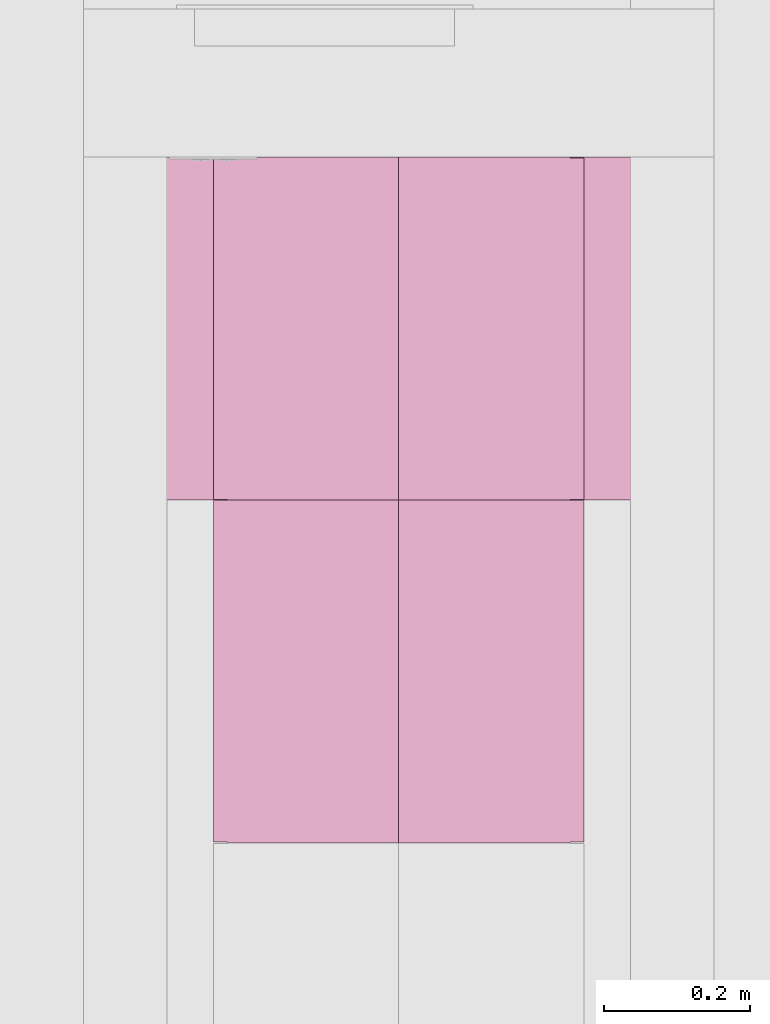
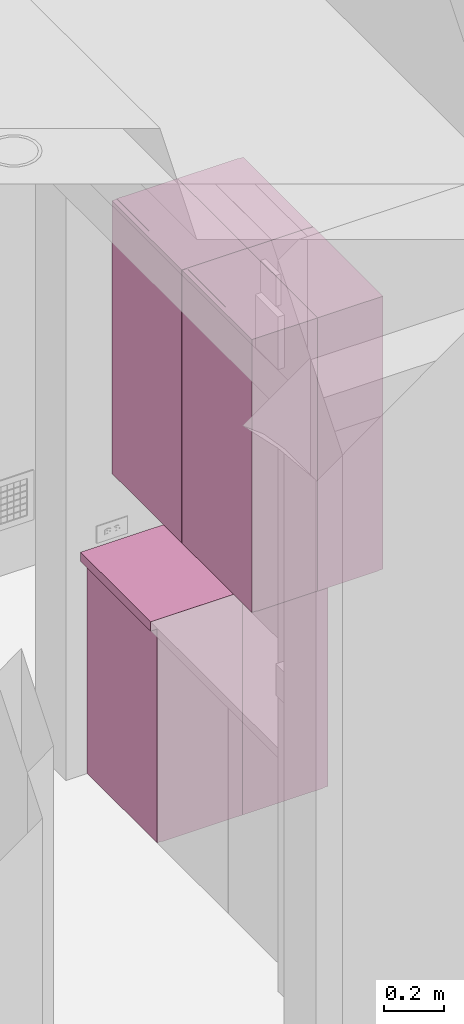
# One storey, part 49 of 103: 6 furnishings.
"""IFC2X3 building model written with IfcOpenShell, lengths in inches."""

from ifc_helpers import new_model, entity, si_unit, converted_unit, derived_unit, money_unit, direction, frame, origin_with_axes, place, context, subcontext, project, spatial, faceted_brep, type_object, element, save


model = new_model("IFC2X3")

# Units and contexts
model_context = context("Model", 3, precision=0.00039370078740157, world=origin_with_axes(), true_north=direction((0.0, 1.0)))
plan_context = context("Plan", 3, precision=0.00039370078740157, world=origin_with_axes(), true_north=direction((0.0, 1.0)))
body_context = subcontext(model_context, "Body", "Model", "MODEL_VIEW")
ifc_project = project(units=[converted_unit("LENGTHUNIT", "INCH", entity("IfcPositiveLengthMeasure", 0.0254), si_unit("LENGTHUNIT", "METRE"), dimensions=[1, 0, 0, 0, 0, 0, 0]), converted_unit("AREAUNIT", "SQUARE_FOOT", entity("IfcPositiveLengthMeasure", 0.09290304), si_unit("AREAUNIT", "SQUARE_METRE"), dimensions=[2, 0, 0, 0, 0, 0, 0]), si_unit("PLANEANGLEUNIT", "RADIAN"), si_unit("SOLIDANGLEUNIT", "STERADIAN"), money_unit("USD"), converted_unit("TIMEUNIT", "Year", entity("IfcTimeMeasure", 31557600.0), si_unit("TIMEUNIT", "SECOND"), dimensions=[0, 0, 1, 0, 0, 0, 0]), si_unit("MASSUNIT", "GRAM", prefix="KILO"), si_unit("THERMODYNAMICTEMPERATUREUNIT", "DEGREE_CELSIUS"), si_unit("LUMINOUSINTENSITYUNIT", "LUMEN"), si_unit("ENERGYUNIT", "JOULE", prefix="MEGA"), derived_unit("SPECIFICHEATCAPACITYUNIT", [(si_unit("ENERGYUNIT", "JOULE"), 1), (si_unit("MASSUNIT", "GRAM", prefix="KILO"), -1), (si_unit("THERMODYNAMICTEMPERATUREUNIT", "KELVIN"), -1)])], contexts=[model_context, plan_context])

# Site, building, storey
site_placement = place(None, origin_with_axes())
site = spatial("IfcSite", under=ifc_project, at=site_placement, Name="Site", CompositionType="ELEMENT")
building_placement = place(site_placement, origin_with_axes())
building = spatial("IfcBuilding", under=site, at=building_placement, Name="Building", CompositionType="ELEMENT")
storey_placement = place(building_placement, frame((0.0, 0.0, 127.9999999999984), z_axis=(0.0, 0.0, 1.0), x_axis=(1.0, 0.0, 0.0)))
storey = spatial("IfcBuildingStorey", under=building, at=storey_placement, Name="Second Floor", CompositionType="ELEMENT", Elevation=128.0)

# Furnishings
furniture_type_1 = type_object("IfcFurnitureType", Name="Base Cabinet Block", AssemblyPlace="NOTDEFINED")
furnishing_1_placement = place(storey_placement, frame((225.749999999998, 261.5028415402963, 0.0), z_axis=(0.0, 0.0, 1.0), x_axis=(0.0, 1.0, 0.0)))
element("IfcFurnishingElement", 1, at=furnishing_1_placement, inside=storey, type_object=furniture_type_1, Name="FU - 004", context=body_context, shape_type="Brep", body=[
    faceted_brep([(0.0, -13.99999999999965, 34.49999999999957), (0.0, -13.99999999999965, 35.99999999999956), (-18.49999999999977, -13.99999999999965, 35.99999999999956), (-18.49999999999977, -13.99999999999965, 34.49999999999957), (0.0, 0.0, 34.49999999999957), (0.0, 0.0, 35.99999999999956), (-18.49999999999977, 0.0, 35.99999999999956), (-18.49999999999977, 0.0, 34.49999999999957)], [[[0, 1, 2, 3]], [[4, 5, 1, 0]], [[1, 5, 6, 2]], [[3, 2, 6, 7]], [[0, 3, 7, 4]], [[7, 6, 5, 4]]]),
    faceted_brep([(-0.039370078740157, -12.24999999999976, 0.039370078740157), (-0.039370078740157, -12.99999999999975, 0.03937007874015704), (-18.46062992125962, -12.99999999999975, 0.03937007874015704), (-18.46062992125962, -12.24999999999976, 0.039370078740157), (-0.039370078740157, -12.24999999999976, 34.46062992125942), (-0.039370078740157, -12.99999999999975, 34.46062992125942), (-18.46062992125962, -12.99999999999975, 34.46062992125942), (-18.46062992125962, -12.24999999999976, 34.46062992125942)], [[[0, 1, 2, 3]], [[4, 5, 1, 0]], [[1, 5, 6, 2]], [[3, 2, 6, 7]], [[0, 3, 7, 4]], [[7, 6, 5, 4]]]),
    faceted_brep([(-0.7499999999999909, -12.24999999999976, 0.0), (-0.7499999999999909, -12.24999999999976, 0.7499999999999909), (-17.74999999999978, -12.24999999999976, 0.7499999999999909), (-17.74999999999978, -12.24999999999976, 0.0), (-0.7499999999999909, 0.0, 0.0), (-0.7499999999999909, 0.0, 0.7499999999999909), (-17.74999999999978, 0.0, 0.7499999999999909), (-17.74999999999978, 0.0, 0.0)], [[[0, 1, 2, 3]], [[4, 5, 1, 0]], [[1, 5, 6, 2]], [[3, 2, 6, 7]], [[0, 3, 7, 4]], [[7, 6, 5, 4]]]),
    faceted_brep([(-0.7499999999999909, -12.24999999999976, 33.74999999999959), (-17.74999999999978, -12.24999999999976, 33.74999999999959), (-17.74999999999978, -9.887795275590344, 33.74999999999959), (-0.7499999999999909, -9.887795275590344, 33.74999999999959), (-0.7499999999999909, -12.24999999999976, 34.49999999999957), (-17.74999999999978, -12.24999999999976, 34.49999999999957), (-17.74999999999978, -9.887795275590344, 34.49999999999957), (-0.7499999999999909, -9.887795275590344, 34.49999999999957)], [[[0, 1, 2, 3]], [[4, 5, 1, 0]], [[1, 5, 6, 2]], [[3, 2, 6, 7]], [[0, 3, 7, 4]], [[7, 6, 5, 4]]]),
    faceted_brep([(-17.74999999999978, 0.0, 33.74999999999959), (-0.7499999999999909, 0.0, 33.74999999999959), (-0.7499999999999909, -2.36220472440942, 33.74999999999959), (-17.74999999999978, -2.36220472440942, 33.74999999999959), (-17.74999999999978, 0.0, 34.49999999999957), (-0.7499999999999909, 0.0, 34.49999999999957), (-0.7499999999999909, -2.36220472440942, 34.49999999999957), (-17.74999999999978, -2.36220472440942, 34.49999999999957)], [[[0, 1, 2, 3]], [[4, 5, 1, 0]], [[1, 5, 6, 2]], [[3, 2, 6, 7]], [[0, 3, 7, 4]], [[7, 6, 5, 4]]]),
    faceted_brep([(0.0, 0.0, 0.0), (0.0, 0.0, 34.49999999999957), (0.0, -12.24999999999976, 34.49999999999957), (0.0, -12.24999999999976, 0.0), (-0.7499999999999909, 0.0, 0.0), (-0.7499999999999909, 0.0, 34.49999999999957), (-0.7499999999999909, -12.24999999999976, 34.49999999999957), (-0.7499999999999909, -12.24999999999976, 0.0)], [[[0, 1, 2, 3]], [[4, 5, 1, 0]], [[1, 5, 6, 2]], [[3, 2, 6, 7]], [[0, 3, 7, 4]], [[7, 6, 5, 4]]]),
    faceted_brep([(-18.49999999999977, -12.24999999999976, 0.0), (-18.49999999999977, -12.24999999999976, 34.49999999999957), (-18.49999999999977, 0.0, 34.49999999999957), (-18.49999999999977, 0.0, 0.0), (-17.74999999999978, -12.24999999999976, 0.0), (-17.74999999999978, -12.24999999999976, 34.49999999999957), (-17.74999999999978, 0.0, 34.49999999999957), (-17.74999999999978, 0.0, 0.0)], [[[0, 1, 2, 3]], [[4, 5, 1, 0]], [[1, 5, 6, 2]], [[3, 2, 6, 7]], [[0, 3, 7, 4]], [[7, 6, 5, 4]]]),
    faceted_brep([(-17.74999999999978, -0.3749999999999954, 0.7499999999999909), (-17.74999999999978, -0.3749999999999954, 33.74999999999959), (-0.7499999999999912, -0.3749999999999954, 33.74999999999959), (-0.7499999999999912, -0.3749999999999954, 0.7499999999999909), (-17.74999999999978, -0.7499999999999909, 0.7499999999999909), (-17.74999999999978, -0.7499999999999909, 33.74999999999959), (-0.7499999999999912, -0.7499999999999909, 33.74999999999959), (-0.7499999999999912, -0.7499999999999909, 0.7499999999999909)], [[[0, 1, 2, 3]], [[4, 5, 1, 0]], [[1, 5, 6, 2]], [[3, 2, 6, 7]], [[0, 3, 7, 4]], [[7, 6, 5, 4]]]),
])
furnishing_2_placement = place(storey_placement, frame((225.749999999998, 261.5028415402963, 0.0), z_axis=(0.0, 0.0, 1.0), x_axis=(0.0, -1.0, 0.0)))
element("IfcFurnishingElement", 2, at=furnishing_2_placement, inside=storey, type_object=furniture_type_1, Name="FU - 004", context=body_context, shape_type="Brep", body=[
    faceted_brep([(0.0, -13.99999999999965, 34.49999999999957), (18.49999999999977, -13.99999999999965, 34.49999999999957), (18.49999999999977, -13.99999999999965, 35.99999999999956), (0.0, -13.99999999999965, 35.99999999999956), (0.0, 0.0, 34.49999999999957), (18.49999999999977, 0.0, 34.49999999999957), (18.49999999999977, 0.0, 35.99999999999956), (0.0, 0.0, 35.99999999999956)], [[[0, 1, 2, 3]], [[0, 4, 5, 1]], [[1, 5, 6, 2]], [[3, 2, 6, 7]], [[4, 0, 3, 7]], [[5, 4, 7, 6]]]),
    faceted_brep([(0.039370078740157, -12.24999999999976, 0.039370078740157), (18.46062992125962, -12.24999999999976, 0.039370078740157), (18.46062992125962, -12.99999999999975, 0.03937007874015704), (0.039370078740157, -12.99999999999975, 0.03937007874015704), (0.039370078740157, -12.24999999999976, 34.46062992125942), (18.46062992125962, -12.24999999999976, 34.46062992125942), (18.46062992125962, -12.99999999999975, 34.46062992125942), (0.039370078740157, -12.99999999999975, 34.46062992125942)], [[[0, 1, 2, 3]], [[0, 4, 5, 1]], [[1, 5, 6, 2]], [[3, 2, 6, 7]], [[4, 0, 3, 7]], [[5, 4, 7, 6]]]),
    faceted_brep([(0.7499999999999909, -12.24999999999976, 0.0), (17.74999999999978, -12.24999999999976, 0.0), (17.74999999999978, -12.24999999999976, 0.7499999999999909), (0.7499999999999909, -12.24999999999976, 0.7499999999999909), (0.7499999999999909, 0.0, 0.0), (17.74999999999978, 0.0, 0.0), (17.74999999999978, 0.0, 0.7499999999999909), (0.7499999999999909, 0.0, 0.7499999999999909)], [[[0, 1, 2, 3]], [[0, 4, 5, 1]], [[1, 5, 6, 2]], [[3, 2, 6, 7]], [[4, 0, 3, 7]], [[5, 4, 7, 6]]]),
    faceted_brep([(0.7499999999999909, -12.24999999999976, 33.74999999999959), (0.7499999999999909, -9.887795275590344, 33.74999999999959), (17.74999999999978, -9.887795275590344, 33.74999999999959), (17.74999999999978, -12.24999999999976, 33.74999999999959), (0.7499999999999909, -12.24999999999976, 34.49999999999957), (0.7499999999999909, -9.887795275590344, 34.49999999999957), (17.74999999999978, -9.887795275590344, 34.49999999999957), (17.74999999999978, -12.24999999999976, 34.49999999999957)], [[[0, 1, 2, 3]], [[0, 4, 5, 1]], [[1, 5, 6, 2]], [[3, 2, 6, 7]], [[4, 0, 3, 7]], [[5, 4, 7, 6]]]),
    faceted_brep([(17.74999999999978, 0.0, 33.74999999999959), (17.74999999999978, -2.36220472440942, 33.74999999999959), (0.7499999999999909, -2.36220472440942, 33.74999999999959), (0.7499999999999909, 0.0, 33.74999999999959), (17.74999999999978, 0.0, 34.49999999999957), (17.74999999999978, -2.36220472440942, 34.49999999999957), (0.7499999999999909, -2.36220472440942, 34.49999999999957), (0.7499999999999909, 0.0, 34.49999999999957)], [[[0, 1, 2, 3]], [[0, 4, 5, 1]], [[1, 5, 6, 2]], [[3, 2, 6, 7]], [[4, 0, 3, 7]], [[5, 4, 7, 6]]]),
    faceted_brep([(0.0, 0.0, 0.0), (0.0, -12.24999999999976, 0.0), (0.0, -12.24999999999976, 34.49999999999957), (0.0, 0.0, 34.49999999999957), (0.7499999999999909, 0.0, 0.0), (0.7499999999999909, -12.24999999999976, 0.0), (0.7499999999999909, -12.24999999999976, 34.49999999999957), (0.7499999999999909, 0.0, 34.49999999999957)], [[[0, 1, 2, 3]], [[0, 4, 5, 1]], [[1, 5, 6, 2]], [[3, 2, 6, 7]], [[4, 0, 3, 7]], [[5, 4, 7, 6]]]),
    faceted_brep([(18.49999999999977, -12.24999999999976, 0.0), (18.49999999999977, 0.0, 0.0), (18.49999999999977, 0.0, 34.49999999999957), (18.49999999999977, -12.24999999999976, 34.49999999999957), (17.74999999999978, -12.24999999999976, 0.0), (17.74999999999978, 0.0, 0.0), (17.74999999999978, 0.0, 34.49999999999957), (17.74999999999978, -12.24999999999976, 34.49999999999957)], [[[0, 1, 2, 3]], [[0, 4, 5, 1]], [[1, 5, 6, 2]], [[3, 2, 6, 7]], [[4, 0, 3, 7]], [[5, 4, 7, 6]]]),
    faceted_brep([(17.74999999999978, -0.3749999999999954, 0.7499999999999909), (0.7499999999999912, -0.3749999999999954, 0.7499999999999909), (0.7499999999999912, -0.3749999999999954, 33.74999999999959), (17.74999999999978, -0.3749999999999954, 33.74999999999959), (17.74999999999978, -0.7499999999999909, 0.7499999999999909), (0.7499999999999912, -0.7499999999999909, 0.7499999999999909), (0.7499999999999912, -0.7499999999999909, 33.74999999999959), (17.74999999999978, -0.7499999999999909, 33.74999999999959)], [[[0, 1, 2, 3]], [[0, 4, 5, 1]], [[1, 5, 6, 2]], [[3, 2, 6, 7]], [[4, 0, 3, 7]], [[5, 4, 7, 6]]]),
])
furniture_type_2 = type_object("IfcFurnitureType", Name="Wall Cabinet Block", AssemblyPlace="NOTDEFINED")
furnishing_3_placement = place(storey_placement, frame((226.4999999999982, 224.5028415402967, -12.99999999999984), z_axis=(0.0, 0.0, 1.0), x_axis=(0.0, -1.0, 0.0)))
element("IfcFurnishingElement", 3, at=furnishing_3_placement, inside=storey, type_object=furniture_type_2, Name="FU - 005", context=body_context, shape_type="Brep", body=[
    faceted_brep([(-0.039370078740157, -9.249999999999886, 60.03937007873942), (-0.039370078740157, -9.999999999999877, 60.03937007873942), (-18.46062992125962, -9.999999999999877, 60.03937007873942), (-18.46062992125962, -9.249999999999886, 60.03937007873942), (-0.039370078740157, -9.249999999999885, 103.9606299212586), (-0.039370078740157, -9.999999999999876, 103.9606299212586), (-18.46062992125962, -9.999999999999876, 103.9606299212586), (-18.46062992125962, -9.249999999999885, 103.9606299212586)], [[[0, 1, 2, 3]], [[4, 5, 1, 0]], [[1, 5, 6, 2]], [[3, 2, 6, 7]], [[0, 3, 7, 4]], [[7, 6, 5, 4]]]),
    faceted_brep([(-0.7499999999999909, -9.249999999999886, 59.99999999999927), (-0.7499999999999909, -9.249999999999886, 60.74999999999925), (-17.74999999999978, -9.249999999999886, 60.74999999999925), (-17.74999999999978, -9.249999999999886, 59.99999999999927), (-0.7499999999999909, 0.0, 59.99999999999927), (-0.7499999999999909, 0.0, 60.74999999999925), (-17.74999999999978, 0.0, 60.74999999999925), (-17.74999999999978, 0.0, 59.99999999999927)], [[[0, 1, 2, 3]], [[4, 5, 1, 0]], [[1, 5, 6, 2]], [[3, 2, 6, 7]], [[0, 3, 7, 4]], [[7, 6, 5, 4]]]),
    faceted_brep([(-0.7499999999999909, -9.249999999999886, 103.2499999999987), (-0.7499999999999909, -9.249999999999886, 103.9999999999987), (-17.74999999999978, -9.249999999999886, 103.9999999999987), (-17.74999999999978, -9.249999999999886, 103.2499999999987), (-0.7499999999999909, 0.0, 103.2499999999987), (-0.7499999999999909, 0.0, 103.9999999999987), (-17.74999999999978, 0.0, 103.9999999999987), (-17.74999999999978, 0.0, 103.2499999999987)], [[[0, 1, 2, 3]], [[4, 5, 1, 0]], [[1, 5, 6, 2]], [[3, 2, 6, 7]], [[0, 3, 7, 4]], [[7, 6, 5, 4]]]),
    faceted_brep([(0.0, 0.0, 59.99999999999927), (0.0, 0.0, 103.9999999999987), (0.0, -9.249999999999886, 103.9999999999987), (0.0, -9.249999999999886, 59.99999999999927), (-0.7499999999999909, 0.0, 59.99999999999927), (-0.7499999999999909, 0.0, 103.9999999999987), (-0.7499999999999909, -9.249999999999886, 103.9999999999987), (-0.7499999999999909, -9.249999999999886, 59.99999999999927)], [[[0, 1, 2, 3]], [[4, 5, 1, 0]], [[1, 5, 6, 2]], [[3, 2, 6, 7]], [[0, 3, 7, 4]], [[7, 6, 5, 4]]]),
    faceted_brep([(-18.49999999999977, -9.249999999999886, 59.99999999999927), (-18.49999999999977, -9.249999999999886, 103.9999999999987), (-18.49999999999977, 0.0, 103.9999999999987), (-18.49999999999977, 0.0, 59.99999999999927), (-17.74999999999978, -9.249999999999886, 59.99999999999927), (-17.74999999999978, -9.249999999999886, 103.9999999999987), (-17.74999999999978, 0.0, 103.9999999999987), (-17.74999999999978, 0.0, 59.99999999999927)], [[[0, 1, 2, 3]], [[4, 5, 1, 0]], [[1, 5, 6, 2]], [[3, 2, 6, 7]], [[0, 3, 7, 4]], [[7, 6, 5, 4]]]),
    faceted_brep([(-17.74999999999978, -0.3749999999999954, 60.74999999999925), (-17.74999999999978, -0.3749999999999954, 103.2499999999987), (-0.7499999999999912, -0.3749999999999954, 103.2499999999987), (-0.7499999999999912, -0.3749999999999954, 60.74999999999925), (-17.74999999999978, -0.7499999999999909, 60.74999999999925), (-17.74999999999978, -0.7499999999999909, 103.2499999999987), (-0.7499999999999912, -0.7499999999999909, 103.2499999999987), (-0.7499999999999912, -0.7499999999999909, 60.74999999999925)], [[[0, 1, 2, 3]], [[4, 5, 1, 0]], [[1, 5, 6, 2]], [[3, 2, 6, 7]], [[0, 3, 7, 4]], [[7, 6, 5, 4]]]),
])
furnishing_4_placement = place(storey_placement, frame((226.4999999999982, 261.5028415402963, -12.99999999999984), z_axis=(0.0, 0.0, 1.0), x_axis=(0.0, -1.0, 0.0)))
element("IfcFurnishingElement", 4, at=furnishing_4_placement, inside=storey, type_object=furniture_type_2, Name="FU - 005", context=body_context, shape_type="Brep", body=[
    faceted_brep([(0.039370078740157, -9.2499999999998, 60.03937007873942), (18.46062992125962, -9.2499999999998, 60.03937007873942), (18.46062992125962, -9.99999999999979, 60.03937007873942), (0.039370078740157, -9.99999999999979, 60.03937007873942), (0.039370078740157, -9.249999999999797, 103.9606299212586), (18.46062992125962, -9.249999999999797, 103.9606299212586), (18.46062992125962, -9.999999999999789, 103.9606299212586), (0.039370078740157, -9.999999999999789, 103.9606299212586)], [[[0, 1, 2, 3]], [[0, 4, 5, 1]], [[1, 5, 6, 2]], [[3, 2, 6, 7]], [[4, 0, 3, 7]], [[5, 4, 7, 6]]]),
    faceted_brep([(0.7499999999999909, -9.2499999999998, 59.99999999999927), (17.74999999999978, -9.2499999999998, 59.99999999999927), (17.74999999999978, -9.2499999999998, 60.74999999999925), (0.7499999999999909, -9.2499999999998, 60.74999999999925), (0.7499999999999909, 0.0, 59.99999999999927), (17.74999999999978, 0.0, 59.99999999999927), (17.74999999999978, 0.0, 60.74999999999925), (0.7499999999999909, 0.0, 60.74999999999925)], [[[0, 1, 2, 3]], [[0, 4, 5, 1]], [[1, 5, 6, 2]], [[3, 2, 6, 7]], [[4, 0, 3, 7]], [[5, 4, 7, 6]]]),
    faceted_brep([(0.7499999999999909, -9.2499999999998, 103.2499999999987), (17.74999999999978, -9.2499999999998, 103.2499999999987), (17.74999999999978, -9.2499999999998, 103.9999999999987), (0.7499999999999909, -9.2499999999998, 103.9999999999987), (0.7499999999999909, 0.0, 103.2499999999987), (17.74999999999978, 0.0, 103.2499999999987), (17.74999999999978, 0.0, 103.9999999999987), (0.7499999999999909, 0.0, 103.9999999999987)], [[[0, 1, 2, 3]], [[0, 4, 5, 1]], [[1, 5, 6, 2]], [[3, 2, 6, 7]], [[4, 0, 3, 7]], [[5, 4, 7, 6]]]),
    faceted_brep([(0.0, 0.0, 59.99999999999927), (0.0, -9.2499999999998, 59.99999999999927), (0.0, -9.2499999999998, 103.9999999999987), (0.0, 0.0, 103.9999999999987), (0.7499999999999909, 0.0, 59.99999999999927), (0.7499999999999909, -9.2499999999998, 59.99999999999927), (0.7499999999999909, -9.2499999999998, 103.9999999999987), (0.7499999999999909, 0.0, 103.9999999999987)], [[[0, 1, 2, 3]], [[0, 4, 5, 1]], [[1, 5, 6, 2]], [[3, 2, 6, 7]], [[4, 0, 3, 7]], [[5, 4, 7, 6]]]),
    faceted_brep([(18.49999999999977, -9.2499999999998, 59.99999999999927), (18.49999999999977, 0.0, 59.99999999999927), (18.49999999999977, 0.0, 103.9999999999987), (18.49999999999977, -9.2499999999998, 103.9999999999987), (17.74999999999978, -9.2499999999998, 59.99999999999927), (17.74999999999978, 0.0, 59.99999999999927), (17.74999999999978, 0.0, 103.9999999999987), (17.74999999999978, -9.2499999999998, 103.9999999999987)], [[[0, 1, 2, 3]], [[0, 4, 5, 1]], [[1, 5, 6, 2]], [[3, 2, 6, 7]], [[4, 0, 3, 7]], [[5, 4, 7, 6]]]),
    faceted_brep([(17.74999999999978, -0.3749999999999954, 60.74999999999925), (0.7499999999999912, -0.3749999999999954, 60.74999999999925), (0.7499999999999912, -0.3749999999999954, 103.2499999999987), (17.74999999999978, -0.3749999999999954, 103.2499999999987), (17.74999999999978, -0.7499999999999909, 60.74999999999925), (0.7499999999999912, -0.7499999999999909, 60.74999999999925), (0.7499999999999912, -0.7499999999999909, 103.2499999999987), (17.74999999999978, -0.7499999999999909, 103.2499999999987)], [[[0, 1, 2, 3]], [[0, 4, 5, 1]], [[1, 5, 6, 2]], [[3, 2, 6, 7]], [[4, 0, 3, 7]], [[5, 4, 7, 6]]]),
])
furnishing_5_placement = place(storey_placement, frame((226.4999999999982, 224.5028415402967, -12.99999999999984), z_axis=(0.0, 0.0, 1.0), x_axis=(0.0, 1.0, 0.0)))
element("IfcFurnishingElement", 5, at=furnishing_5_placement, inside=storey, type_object=furniture_type_2, Name="FU - 005", context=body_context, shape_type="Brep", body=[
    faceted_brep([(0.039370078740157, -9.249999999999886, 60.03937007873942), (18.46062992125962, -9.249999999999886, 60.03937007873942), (18.46062992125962, -9.999999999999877, 60.03937007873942), (0.039370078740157, -9.999999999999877, 60.03937007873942), (0.039370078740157, -9.249999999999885, 103.9606299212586), (18.46062992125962, -9.249999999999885, 103.9606299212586), (18.46062992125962, -9.999999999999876, 103.9606299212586), (0.039370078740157, -9.999999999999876, 103.9606299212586)], [[[0, 1, 2, 3]], [[0, 4, 5, 1]], [[1, 5, 6, 2]], [[3, 2, 6, 7]], [[4, 0, 3, 7]], [[5, 4, 7, 6]]]),
    faceted_brep([(0.7499999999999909, -9.249999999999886, 59.99999999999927), (17.74999999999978, -9.249999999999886, 59.99999999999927), (17.74999999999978, -9.249999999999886, 60.74999999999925), (0.7499999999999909, -9.249999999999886, 60.74999999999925), (0.7499999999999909, 0.0, 59.99999999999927), (17.74999999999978, 0.0, 59.99999999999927), (17.74999999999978, 0.0, 60.74999999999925), (0.7499999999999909, 0.0, 60.74999999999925)], [[[0, 1, 2, 3]], [[0, 4, 5, 1]], [[1, 5, 6, 2]], [[3, 2, 6, 7]], [[4, 0, 3, 7]], [[5, 4, 7, 6]]]),
    faceted_brep([(0.7499999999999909, -9.249999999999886, 103.2499999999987), (17.74999999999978, -9.249999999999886, 103.2499999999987), (17.74999999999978, -9.249999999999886, 103.9999999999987), (0.7499999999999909, -9.249999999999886, 103.9999999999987), (0.7499999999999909, 0.0, 103.2499999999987), (17.74999999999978, 0.0, 103.2499999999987), (17.74999999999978, 0.0, 103.9999999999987), (0.7499999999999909, 0.0, 103.9999999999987)], [[[0, 1, 2, 3]], [[0, 4, 5, 1]], [[1, 5, 6, 2]], [[3, 2, 6, 7]], [[4, 0, 3, 7]], [[5, 4, 7, 6]]]),
    faceted_brep([(0.0, 0.0, 59.99999999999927), (0.0, -9.249999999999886, 59.99999999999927), (0.0, -9.249999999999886, 103.9999999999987), (0.0, 0.0, 103.9999999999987), (0.7499999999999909, 0.0, 59.99999999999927), (0.7499999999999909, -9.249999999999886, 59.99999999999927), (0.7499999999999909, -9.249999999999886, 103.9999999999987), (0.7499999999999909, 0.0, 103.9999999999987)], [[[0, 1, 2, 3]], [[0, 4, 5, 1]], [[1, 5, 6, 2]], [[3, 2, 6, 7]], [[4, 0, 3, 7]], [[5, 4, 7, 6]]]),
    faceted_brep([(18.49999999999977, -9.249999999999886, 59.99999999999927), (18.49999999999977, 0.0, 59.99999999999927), (18.49999999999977, 0.0, 103.9999999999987), (18.49999999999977, -9.249999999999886, 103.9999999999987), (17.74999999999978, -9.249999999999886, 59.99999999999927), (17.74999999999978, 0.0, 59.99999999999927), (17.74999999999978, 0.0, 103.9999999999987), (17.74999999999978, -9.249999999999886, 103.9999999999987)], [[[0, 1, 2, 3]], [[0, 4, 5, 1]], [[1, 5, 6, 2]], [[3, 2, 6, 7]], [[4, 0, 3, 7]], [[5, 4, 7, 6]]]),
    faceted_brep([(17.74999999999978, -0.3749999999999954, 60.74999999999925), (0.7499999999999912, -0.3749999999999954, 60.74999999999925), (0.7499999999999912, -0.3749999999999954, 103.2499999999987), (17.74999999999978, -0.3749999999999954, 103.2499999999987), (17.74999999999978, -0.7499999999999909, 60.74999999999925), (0.7499999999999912, -0.7499999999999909, 60.74999999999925), (0.7499999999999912, -0.7499999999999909, 103.2499999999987), (17.74999999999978, -0.7499999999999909, 103.2499999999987)], [[[0, 1, 2, 3]], [[0, 4, 5, 1]], [[1, 5, 6, 2]], [[3, 2, 6, 7]], [[4, 0, 3, 7]], [[5, 4, 7, 6]]]),
])
furnishing_6_placement = place(storey_placement, frame((226.4999999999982, 261.5028415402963, -12.99999999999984), z_axis=(0.0, 0.0, 1.0), x_axis=(0.0, 1.0, 0.0)))
element("IfcFurnishingElement", 6, at=furnishing_6_placement, inside=storey, type_object=furniture_type_2, Name="FU - 005", context=body_context, shape_type="Brep", body=[
    faceted_brep([(-0.039370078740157, -9.2499999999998, 60.03937007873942), (-0.039370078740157, -9.99999999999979, 60.03937007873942), (-18.46062992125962, -9.99999999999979, 60.03937007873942), (-18.46062992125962, -9.2499999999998, 60.03937007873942), (-0.039370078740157, -9.249999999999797, 103.9606299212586), (-0.039370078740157, -9.999999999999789, 103.9606299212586), (-18.46062992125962, -9.999999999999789, 103.9606299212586), (-18.46062992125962, -9.249999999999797, 103.9606299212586)], [[[0, 1, 2, 3]], [[4, 5, 1, 0]], [[1, 5, 6, 2]], [[3, 2, 6, 7]], [[0, 3, 7, 4]], [[7, 6, 5, 4]]]),
    faceted_brep([(-0.7499999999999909, -9.2499999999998, 59.99999999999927), (-0.7499999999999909, -9.2499999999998, 60.74999999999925), (-17.74999999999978, -9.2499999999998, 60.74999999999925), (-17.74999999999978, -9.2499999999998, 59.99999999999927), (-0.7499999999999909, 0.0, 59.99999999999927), (-0.7499999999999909, 0.0, 60.74999999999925), (-17.74999999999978, 0.0, 60.74999999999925), (-17.74999999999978, 0.0, 59.99999999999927)], [[[0, 1, 2, 3]], [[4, 5, 1, 0]], [[1, 5, 6, 2]], [[3, 2, 6, 7]], [[0, 3, 7, 4]], [[7, 6, 5, 4]]]),
    faceted_brep([(-0.7499999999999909, -9.2499999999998, 103.2499999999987), (-0.7499999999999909, -9.2499999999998, 103.9999999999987), (-17.74999999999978, -9.2499999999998, 103.9999999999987), (-17.74999999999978, -9.2499999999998, 103.2499999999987), (-0.7499999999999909, 0.0, 103.2499999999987), (-0.7499999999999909, 0.0, 103.9999999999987), (-17.74999999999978, 0.0, 103.9999999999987), (-17.74999999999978, 0.0, 103.2499999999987)], [[[0, 1, 2, 3]], [[4, 5, 1, 0]], [[1, 5, 6, 2]], [[3, 2, 6, 7]], [[0, 3, 7, 4]], [[7, 6, 5, 4]]]),
    faceted_brep([(0.0, 0.0, 59.99999999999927), (0.0, 0.0, 103.9999999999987), (0.0, -9.2499999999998, 103.9999999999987), (0.0, -9.2499999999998, 59.99999999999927), (-0.7499999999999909, 0.0, 59.99999999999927), (-0.7499999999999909, 0.0, 103.9999999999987), (-0.7499999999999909, -9.2499999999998, 103.9999999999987), (-0.7499999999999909, -9.2499999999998, 59.99999999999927)], [[[0, 1, 2, 3]], [[4, 5, 1, 0]], [[1, 5, 6, 2]], [[3, 2, 6, 7]], [[0, 3, 7, 4]], [[7, 6, 5, 4]]]),
    faceted_brep([(-18.49999999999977, -9.2499999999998, 59.99999999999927), (-18.49999999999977, -9.2499999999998, 103.9999999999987), (-18.49999999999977, 0.0, 103.9999999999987), (-18.49999999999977, 0.0, 59.99999999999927), (-17.74999999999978, -9.2499999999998, 59.99999999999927), (-17.74999999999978, -9.2499999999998, 103.9999999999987), (-17.74999999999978, 0.0, 103.9999999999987), (-17.74999999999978, 0.0, 59.99999999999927)], [[[0, 1, 2, 3]], [[4, 5, 1, 0]], [[1, 5, 6, 2]], [[3, 2, 6, 7]], [[0, 3, 7, 4]], [[7, 6, 5, 4]]]),
    faceted_brep([(-17.74999999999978, -0.3749999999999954, 60.74999999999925), (-17.74999999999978, -0.3749999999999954, 103.2499999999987), (-0.7499999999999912, -0.3749999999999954, 103.2499999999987), (-0.7499999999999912, -0.3749999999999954, 60.74999999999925), (-17.74999999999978, -0.7499999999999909, 60.74999999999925), (-17.74999999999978, -0.7499999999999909, 103.2499999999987), (-0.7499999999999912, -0.7499999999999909, 103.2499999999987), (-0.7499999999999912, -0.7499999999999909, 60.74999999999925)], [[[0, 1, 2, 3]], [[4, 5, 1, 0]], [[1, 5, 6, 2]], [[3, 2, 6, 7]], [[0, 3, 7, 4]], [[7, 6, 5, 4]]]),
])

save(model, "model.ifc")
